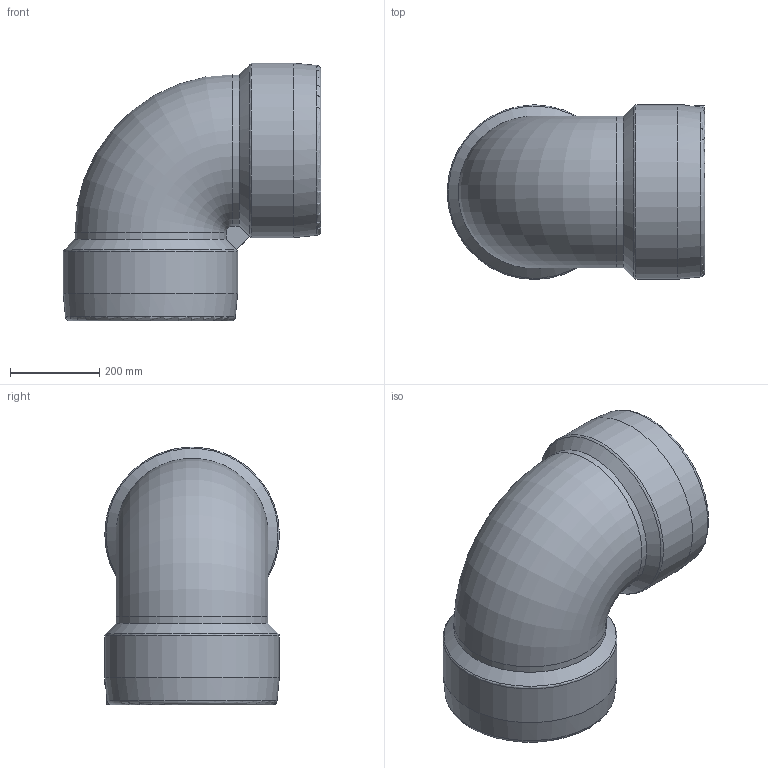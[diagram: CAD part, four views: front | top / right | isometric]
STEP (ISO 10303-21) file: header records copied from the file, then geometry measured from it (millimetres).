
FILE_DESCRIPTION(/* description */ ('Unknown'),/* implementation_level */ '2;1');
FILE_NAME(/* name */ 'GE9P315C',/* time_stamp */ '2021-04-22T15:31:44+02:00',/* author */ ('Unknown'),/* organization */ ('Unknown'),/* preprocessor_version */ 'ST-DEVELOPER v16.7',/* originating_system */ 'Solid Edge',/* authorisation */ 'Unknown');
FILE_SCHEMA (('AUTOMOTIVE_DESIGN {1 0 10303 214 3 1 1}'));
Length unit declared in the file: millimetre
Products named in the file (1): GE9P315C
Bounding box: 579 x 392.5 x 579 mm (x, y, z)
Volume: 26874644.2 mm3; surface area: 1548051.2 mm2
Topology: 1 solids, 1 shells, 41 faces, 96 edges, 65 vertices
Faces by surface type: plane 15, cylinder 14, cone 6, torus 6
Full cylindrical faces by diameter (mm): 4 x2, 10 x2, 12 x2, 274 x2, 315 x2, 392 x2
Entity records: 1094 total; most frequent: CARTESIAN_POINT 283, DIRECTION 164, ORIENTED_EDGE 126, AXIS2_PLACEMENT_3D 79, EDGE_LOOP 71, FACE_BOUND 71, EDGE_CURVE 63, VERTEX_POINT 52
